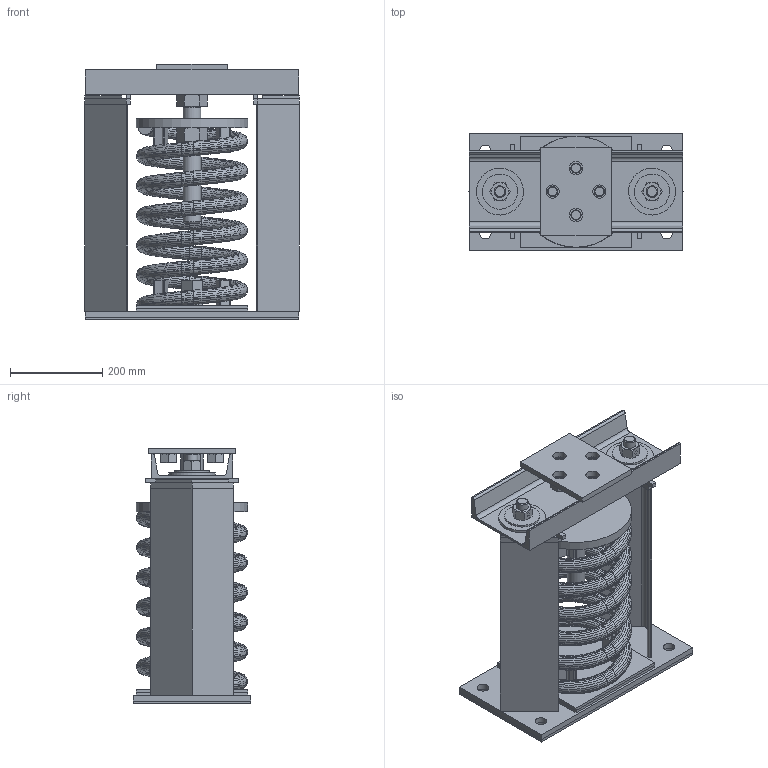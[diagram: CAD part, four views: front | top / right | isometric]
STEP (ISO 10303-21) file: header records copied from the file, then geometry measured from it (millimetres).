
FILE_DESCRIPTION(/* description */ (''),/* implementation_level */ '2;1');
FILE_NAME(/* name */ 'C:\001_Work\Designs\SLR-100 SERIES\SLR 100 SERIES (NON STOCK MOUNTS)\SLR 190-191\SLR-191.stp',/* time_stamp */ '2016-01-19T15:15:47-05:00',/* author */ ('rramoutar'),/* organization */ ('Mason Industries Inc.'),/* preprocessor_version */ 'ST-DEVELOPER v15.6',/* originating_system */ 'Autodesk Inventor 2015',/* authorisation */ '');
FILE_SCHEMA (('CONFIG_CONTROL_DESIGN'));
Products named in the file (1): SLR-191 PER A-28489-3
Bounding box: 464.9 x 254 x 555.62 mm (x, y, z)
Volume: 8695372.7 mm3; surface area: 2677948.6 mm2
Topology: 38 solids, 38 shells, 1041 faces, 2226 edges, 1266 vertices
Faces by surface type: bspline 550, plane 286, cone 122, cylinder 80, torus 3
Full cylindrical faces by diameter (mm): 9.525 x2, 16.307 x1, 19.177 x4, 21.971 x2, 25.4 x10, 25.959 x2, 26.987 x4, 28.575 x4, 34.671 x1, 38.1 x3, 40.894 x1, 41.275 x1, 44.45 x2, 48.26 x1, 50.8 x4, 57.15 x1, 76.2 x2, 101.6 x2, 241.3 x1
Entity records: 48954 total; most frequent: CARTESIAN_POINT 30338, ORIENTED_EDGE 4254, EDGE_CURVE 2127, DIRECTION 2097, VERTEX_POINT 1238, EDGE_LOOP 1179, B_SPLINE_CURVE_WITH_KNOTS 1109, STYLED_ITEM 1079
